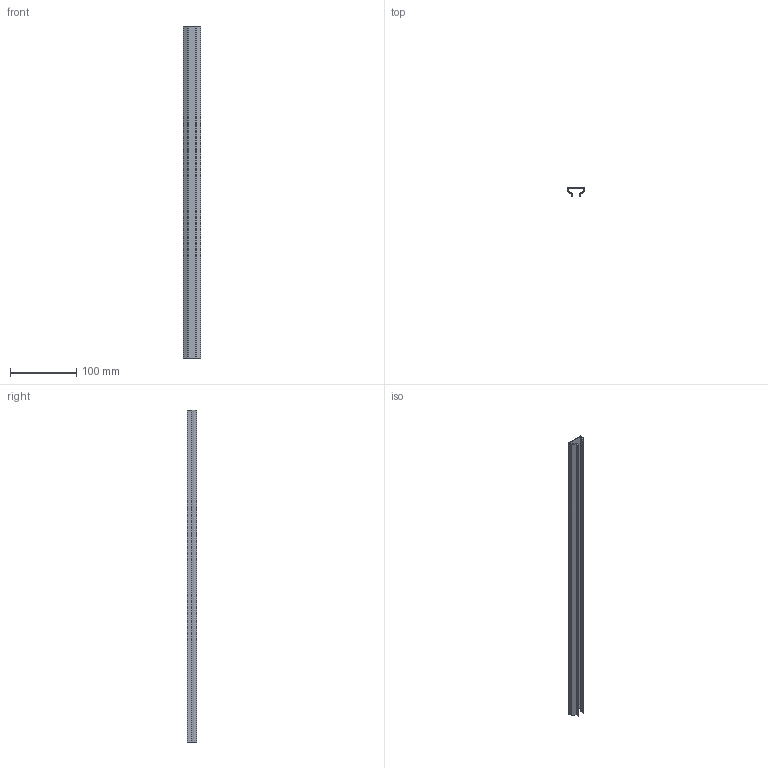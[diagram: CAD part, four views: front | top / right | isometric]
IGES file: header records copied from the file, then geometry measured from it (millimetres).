
Start section: 3D InterOp IGES (v. 2018 1.0.2), Spatial Corp. Copyright (c) 1999-2017.
Global section: file name: profil clipsable.igs; native system: Spatial Corp.; preprocessor: 3D InterOp GENERIC/IGES 3.0; author: Noname; organization: Noname; date: 20190430.084301; units: millimetre
Bounding box: 25.8 x 14 x 500 mm (x, y, z)
Surface area: 60825.7 mm2 (no closed solid volume)
Topology: 0 solids, 0 shells, 18 faces, 98 edges, 100 vertices
Faces by surface type: extrusion 18
